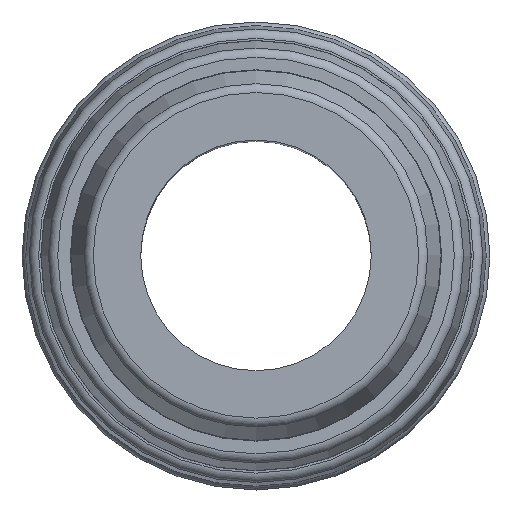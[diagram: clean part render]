
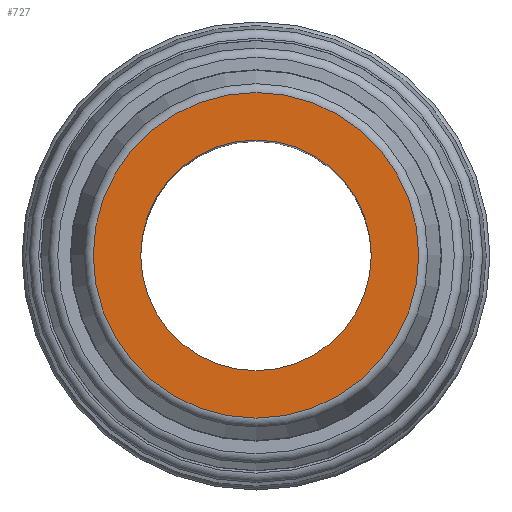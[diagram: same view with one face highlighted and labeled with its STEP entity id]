
A CAD part, top view. The second image highlights one B-rep face of the part: STEP entity #727.
In plain terms, the highlighted planar face has unit normal (0, 0, 1).
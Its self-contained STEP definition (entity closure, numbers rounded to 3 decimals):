
#23=FACE_BOUND('',#170,.T.);
#37=PLANE('',#843);
#110=FACE_OUTER_BOUND('',#169,.T.);
#169=EDGE_LOOP('',(#574));
#170=EDGE_LOOP('',(#575));
#253=CIRCLE('',#842,8.648);
#254=CIRCLE('',#844,6.125);
#331=VERTEX_POINT('',#1331);
#332=VERTEX_POINT('',#1335);
#416=EDGE_CURVE('',#331,#331,#253,.T.);
#417=EDGE_CURVE('',#332,#332,#254,.T.);
#574=ORIENTED_EDGE('',*,*,#416,.F.);
#575=ORIENTED_EDGE('',*,*,#417,.T.);
#727=ADVANCED_FACE('',(#110,#23),#37,.F.);
#842=AXIS2_PLACEMENT_3D('',#1333,#1067,#1068);
#843=AXIS2_PLACEMENT_3D('',#1334,#1069,#1070);
#844=AXIS2_PLACEMENT_3D('',#1336,#1071,#1072);
#1067=DIRECTION('center_axis',(0.,0.,-1.));
#1068=DIRECTION('ref_axis',(1.,0.,0.));
#1069=DIRECTION('center_axis',(0.,0.,-1.));
#1070=DIRECTION('ref_axis',(1.,0.,0.));
#1071=DIRECTION('center_axis',(0.,0.,-1.));
#1072=DIRECTION('ref_axis',(1.,0.,0.));
#1331=CARTESIAN_POINT('',(8.648,0.,0.));
#1333=CARTESIAN_POINT('Origin',(0.,0.,0.));
#1334=CARTESIAN_POINT('Origin',(0.,0.,0.));
#1335=CARTESIAN_POINT('',(-6.125,0.,0.));
#1336=CARTESIAN_POINT('Origin',(0.,0.,0.));
